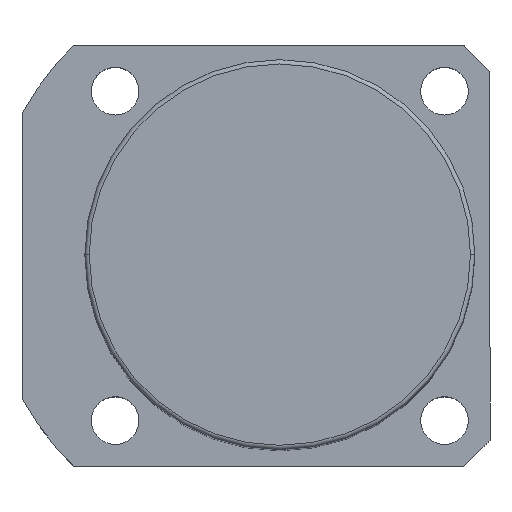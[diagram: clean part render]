
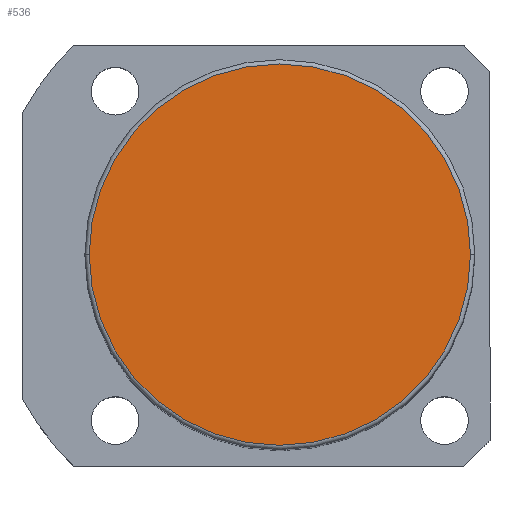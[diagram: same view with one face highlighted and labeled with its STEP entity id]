
A CAD part, top view. The second image highlights one B-rep face of the part: STEP entity #536.
In plain terms, the highlighted planar face has unit normal (0, 0, 1).
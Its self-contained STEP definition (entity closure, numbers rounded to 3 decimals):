
#10 = CIRCLE ( 'NONE', #600, 44. ) ;
#33 = CARTESIAN_POINT ( 'NONE',  ( 0., 0., 176.5 ) ) ;
#49 = DIRECTION ( 'NONE',  ( 1., 0., 0. ) ) ;
#54 = EDGE_LOOP ( 'NONE', ( #122, #1592 ) ) ;
#122 = ORIENTED_EDGE ( 'NONE', *, *, #1195, .T. ) ;
#141 = DIRECTION ( 'NONE',  ( 0., 0., 1. ) ) ;
#390 = DIRECTION ( 'NONE',  ( 0., 0., 1. ) ) ;
#421 = PLANE ( 'NONE',  #1362 ) ;
#536 = ADVANCED_FACE ( 'NONE', ( #1052 ), #421, .T. ) ;
#584 = CARTESIAN_POINT ( 'NONE',  ( 0., 0., 176.5 ) ) ;
#600 = AXIS2_PLACEMENT_3D ( 'NONE', #1555, #141, #1707 ) ;
#640 = VERTEX_POINT ( 'NONE', #1677 ) ;
#704 = AXIS2_PLACEMENT_3D ( 'NONE', #33, #1594, #49 ) ;
#724 = VERTEX_POINT ( 'NONE', #1694 ) ;
#1052 = FACE_OUTER_BOUND ( 'NONE', #54, .T. ) ;
#1098 = EDGE_CURVE ( 'NONE', #724, #640, #10, .T. ) ;
#1195 = EDGE_CURVE ( 'NONE', #640, #724, #1339, .T. ) ;
#1339 = CIRCLE ( 'NONE', #704, 44. ) ;
#1362 = AXIS2_PLACEMENT_3D ( 'NONE', #584, #390, #1640 ) ;
#1555 = CARTESIAN_POINT ( 'NONE',  ( 0., 0., 176.5 ) ) ;
#1592 = ORIENTED_EDGE ( 'NONE', *, *, #1098, .T. ) ;
#1594 = DIRECTION ( 'NONE',  ( 0., 0., 1. ) ) ;
#1640 = DIRECTION ( 'NONE',  ( 1., 0., 0. ) ) ;
#1677 = CARTESIAN_POINT ( 'NONE',  ( 44., 0., 176.5 ) ) ;
#1694 = CARTESIAN_POINT ( 'NONE',  ( -44., 0., 176.5 ) ) ;
#1707 = DIRECTION ( 'NONE',  ( 1., 0., 0. ) ) ;
